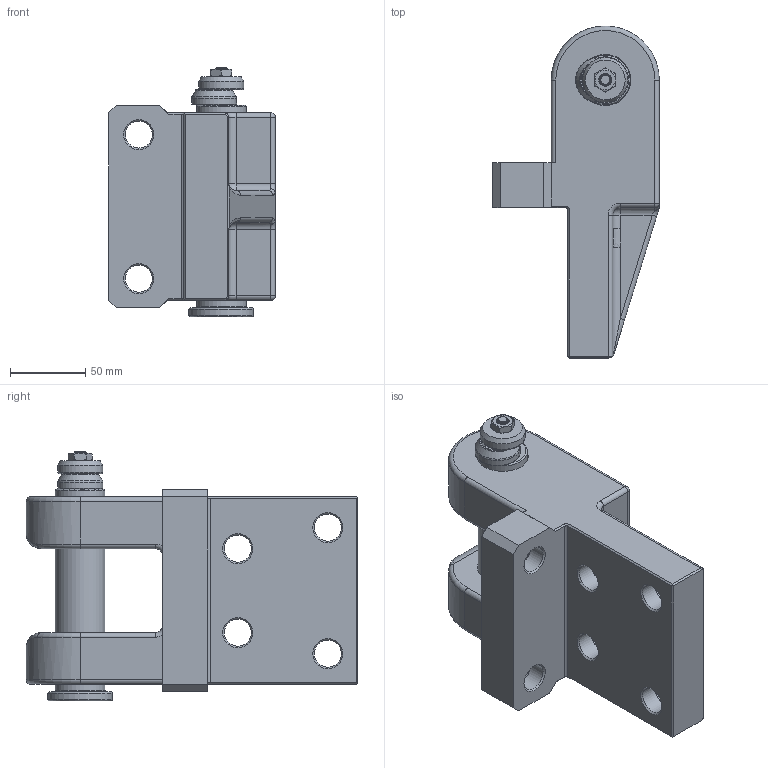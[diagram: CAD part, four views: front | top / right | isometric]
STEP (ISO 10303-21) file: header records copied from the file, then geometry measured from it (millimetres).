
FILE_DESCRIPTION(/* description */ (''),/* implementation_level */ '2;1');
FILE_NAME(/* name */ '2133.12.034.stp',/* time_stamp */ '2025-04-02T14:25:27+08:00',/* author */ (''),/* organization */ (''),/* preprocessor_version */ 'ST-DEVELOPER v16',/* originating_system */ 'SIEMENS PLM Software NX 10.0',/* authorisation */ '');
FILE_SCHEMA (('AP203_CONFIGURATION_CONTROLLED_3D_DESIGN_OF_MECHANICAL_PARTS_AND_ASSEMBLIES_MIM_LF { 1 0 10303 403 2 1 2}'));
Length unit declared in the file: millimetre
Products named in the file (1): Admi177C9AD32inu
Bounding box: 111 x 221 x 166.5 mm (x, y, z)
Volume: 1234710.1 mm3; surface area: 144346.9 mm2
Topology: 5 solids, 5 shells, 552 faces, 1426 edges, 919 vertices
Faces by surface type: plane 227, extrusion 162, cylinder 75, cone 32, torus 27, bspline 25, sphere 4
Full cylindrical faces by diameter (mm): 12 x1, 18 x6, 22 x1, 28 x6, 30 x2, 33 x1, 34 x2, 43 x1
Entity records: 25445 total; most frequent: CARTESIAN_POINT 13251, ORIENTED_EDGE 2676, DIRECTION 1914, EDGE_CURVE 1338, VERTEX_POINT 896, VECTOR 746, B_SPLINE_CURVE_WITH_KNOTS 697, EDGE_LOOP 672
